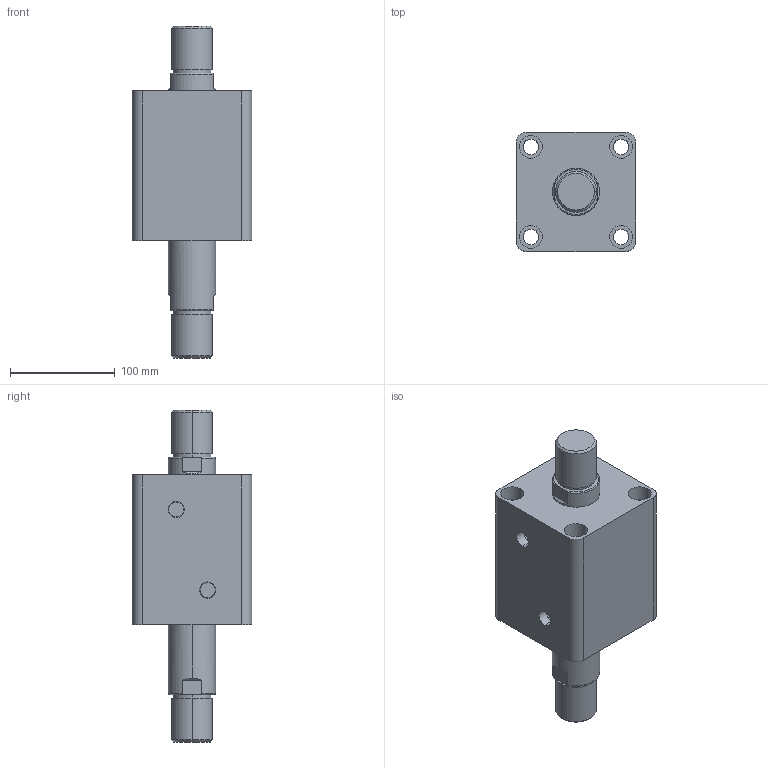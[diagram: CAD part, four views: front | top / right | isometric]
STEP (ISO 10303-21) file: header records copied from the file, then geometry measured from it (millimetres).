
FILE_DESCRIPTION (( 'STEP AP203' ), '1' );
FILE_NAME ('HTB-SW80-50W.STEP', '2019-10-07T10:23:13', ( '微软用户' ), ( '微软中国' ), 'SwSTEP 2.0', 'SolidWorks 2012', '' );
FILE_SCHEMA (( 'CONFIG_CONTROL_DESIGN' ));
Length unit declared in the file: millimetre
Products named in the file (3): HTB-SW80-50W; HTB-SW80-50W活塞杆; HTB-SW80-50掛极
Assembly tree (2 placements, depth 2):
  HTB-SW80-50W
    HTB-SW80-50掛极
    HTB-SW80-50W活塞杆
Bounding box: 114 x 114 x 317 mm (x, y, z)
Volume: 1782755.9 mm3; surface area: 207440.9 mm2
Topology: 2 solids, 2 shells, 108 faces, 240 edges, 156 vertices
Faces by surface type: cylinder 52, plane 36, torus 12, cone 8
Entity records: 3449 total; most frequent: CARTESIAN_POINT 629, DIRECTION 586, ORIENTED_EDGE 480, AXIS2_PLACEMENT_3D 249, EDGE_CURVE 240, VERTEX_POINT 156, EDGE_LOOP 138, CIRCLE 136
